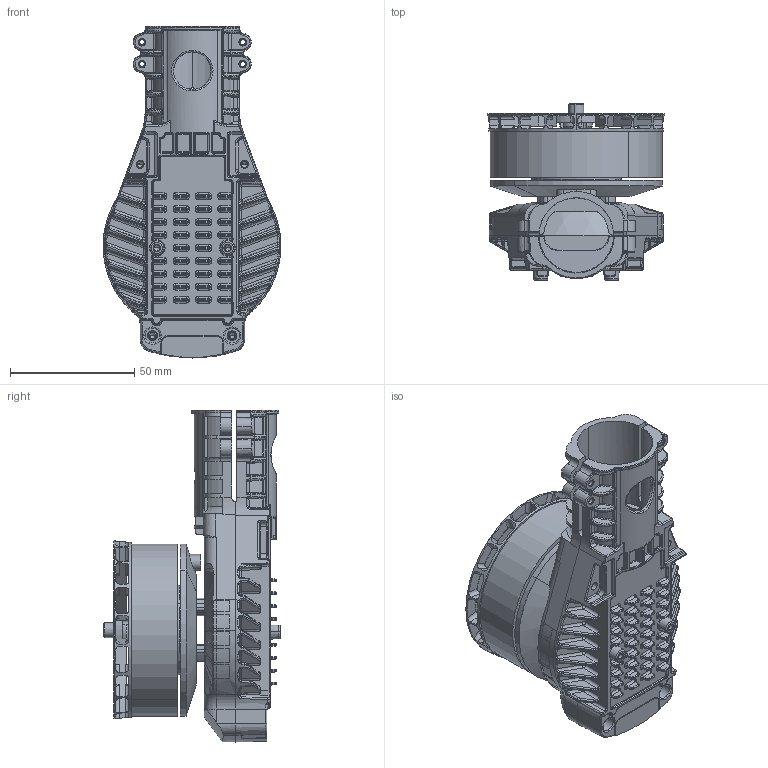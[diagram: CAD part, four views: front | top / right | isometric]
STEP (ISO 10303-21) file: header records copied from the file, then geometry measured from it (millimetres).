
FILE_DESCRIPTION (( 'STEP AP203' ), '1' );
FILE_NAME ('A6-X蚾饜芞.STEP', '2024-07-17T07:57:10', ( '' ), ( '' ), 'SwSTEP 2.0', 'SolidWorks 2022', '' );
FILE_SCHEMA (( 'CONFIG_CONTROL_DESIGN' ));
Length unit declared in the file: millimetre
Products named in the file (14): BJJ02012016-A6-后盖-AB; A6-X上盖C修改版; 前盖强加排风B; A6-X下盖REV02^A6一体机臂装配8.20B; 防尘网0.5厚^A6-10.11整机备货示意B; A6-X灯罩B; A6-钢圈^A6-10.11整机备货示意B; A6-0.5防尘网B; C0102000732-A6-钢轴-AB; 零件10^A6-10.11整机备货示意B; 铁芯^A6-10.11整机备货示意B; A6-10.11整机备货示意B; A6-X装配图; A8-防尘网配套硅胶件B
Assembly tree (11 placements, depth 3):
  防尘网0.5厚^A6-10.11整机备货示意B
  零件10^A6-10.11整机备货示意B
  A6-X装配图
    A6-10.11整机备货示意B
      BJJ02012016-A6-后盖-AB
      C0102000732-A6-钢轴-AB
      A6-钢圈^A6-10.11整机备货示意B
      前盖强加排风B
      铁芯^A6-10.11整机备货示意B
    A6-0.5防尘网B
    A6-X上盖C修改版
    A6-X下盖REV02^A6一体机臂装配8.20B
    A8-防尘网配套硅胶件B
    A6-X灯罩B
Bounding box: 71.55 x 70.9 x 133.5 mm (x, y, z)
Volume: 160862.2 mm3; surface area: 103213.6 mm2
Topology: 10 solids, 12 shells, 4399 faces, 11349 edges, 6915 vertices
Faces by surface type: cylinder 1798, plane 1050, bspline 1001, cone 270, torus 234, sphere 46
Entity records: 159669 total; most frequent: CARTESIAN_POINT 59081, ORIENTED_EDGE 22474, DIRECTION 19184, EDGE_CURVE 11237, AXIS2_PLACEMENT_3D 7458, VERTEX_POINT 6907, EDGE_LOOP 4590, FACE_OUTER_BOUND 4399
